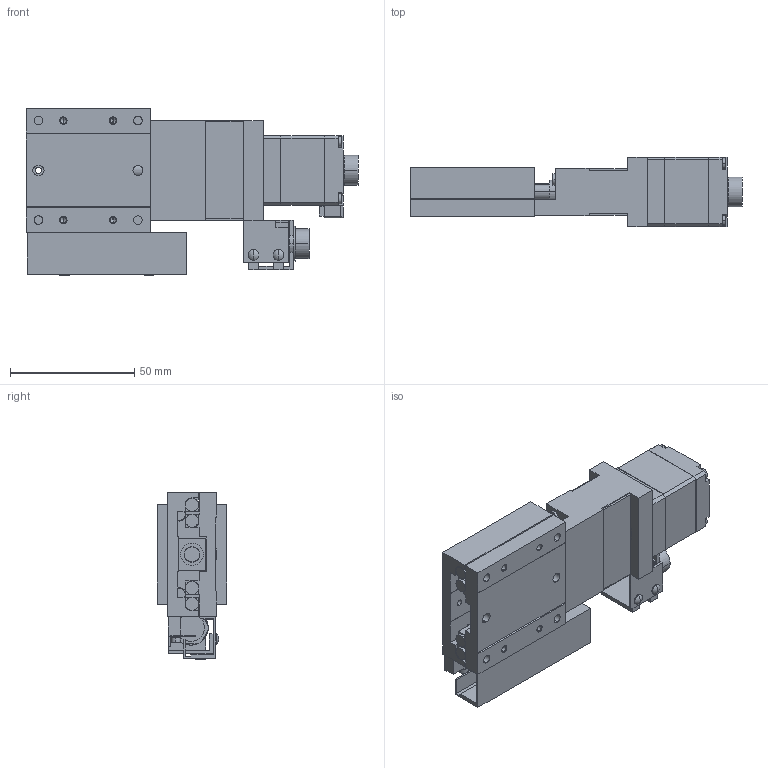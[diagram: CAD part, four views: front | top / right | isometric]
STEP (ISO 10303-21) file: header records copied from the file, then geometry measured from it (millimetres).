
FILE_DESCRIPTION(('STEP AP203'),'1');
FILE_NAME('C:/3D-Trans/3D_PG513M-R□-C+231013.step','2023-10-13T07:16:06',(' '),(' '),'Spatial InterOp 3D',' ',' ');
FILE_SCHEMA(('CONFIG_CONTROL_DESIGN'));
Length unit declared in the file: millimetre
Products named in the file (6): 1; 2; 3; 4; 5; 6
Bounding box: 133.5 x 28 x 67.4 mm (x, y, z)
Volume: 95937.2 mm3; surface area: 46058.2 mm2
Topology: 6 solids, 6 shells, 683 faces, 1761 edges, 1114 vertices
Faces by surface type: plane 397, cylinder 206, cone 76, sphere 4
Entity records: 20905 total; most frequent: DIRECTION 3661, CARTESIAN_POINT 3572, ORIENTED_EDGE 3474, EDGE_CURVE 1737, AXIS2_PLACEMENT_3D 1243, LINE 1175, VECTOR 1175, VERTEX_POINT 1114
